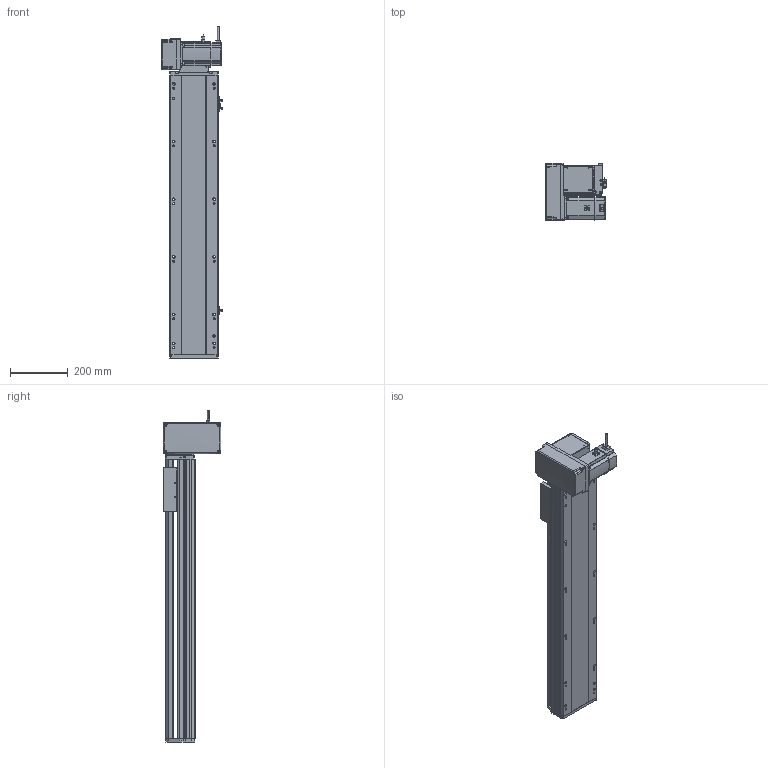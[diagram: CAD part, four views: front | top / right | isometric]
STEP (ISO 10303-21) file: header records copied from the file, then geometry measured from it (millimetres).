
FILE_DESCRIPTION (( 'STEP AP214' ), '1' );
FILE_NAME ('RTB17S-XX-700-LM-M75-C4.STEP', '2025-12-12T00:36:30', ( '' ), ( '' ), 'SwSTEP 2.0', 'SolidWorks 2018', '' );
FILE_SCHEMA (( 'AUTOMOTIVE_DESIGN' ));
Length unit declared in the file: millimetre
Products named in the file (15): EE672^RTB17S-XX-XX-LM-M75-C4; RTB17-R-011菁釱^RTB17S-XX-XX-LM-M75-C4; 750W萇儂^RTB17S-XX-XX-LM-M75-C4; RTB17S-賑釱^RTB17S-XX-XX-LM-M75-C4; RTB17S-L-007奻裔^RTB17S-XX-XX-LM-M75-C4; RTB17S-L-001-耜醱啣^RTB17S-XX-XX-LM-M75-C4; RTH13-BL-012覜茼え俋离^RTB17S-賑釱_RTB17S-XX-XX-LM-M75-C4; RTB17S-XX-700-LM-M75-C4; RTB22S-GY-017P^RTB17S-LM-々湍釱蚾饜-750W_RTB17S-XX-XX-LM-M75-C4; RTB22S-GY-008-M75--萇儂啣^RTB17S-LM-々湍釱蚾饜-750W_RTB17S-XX-XX-LM-M75-C4; RTB22S-GY-018P^RTB17S-LM-々湍釱蚾饜-750W_RTB17S-XX-XX-LM-M75-C4; RTB22S-GY-005P^RTB17S-LM-々湍釱蚾饜-750W_RTB17S-XX-XX-LM-M75-C4; RTB17S-L-014-T20-P75--々湍釱^RTB17S-LM-々湍釱蚾饜-750W_RTB17S-XX-XX-LM-M75-C4; RTB17S-LM-々湍釱蚾饜-750W^RTB17S-XX-XX-LM-M75-C4; RTB17S-L-004-賑釱^RTB17S-賑釱_RTB17S-XX-XX-LM-M75-C4
Assembly tree (17 placements, depth 3):
  RTB17S-XX-700-LM-M75-C4
    RTB17-R-011菁釱^RTB17S-XX-XX-LM-M75-C4
    EE672^RTB17S-XX-XX-LM-M75-C4  x3
    RTB17S-L-001-耜醱啣^RTB17S-XX-XX-LM-M75-C4
    RTB17S-賑釱^RTB17S-XX-XX-LM-M75-C4
      RTB17S-L-004-賑釱^RTB17S-賑釱_RTB17S-XX-XX-LM-M75-C4
      RTH13-BL-012覜茼え俋离^RTB17S-賑釱_RTB17S-XX-XX-LM-M75-C4
    RTB17S-L-007奻裔^RTB17S-XX-XX-LM-M75-C4
    750W萇儂^RTB17S-XX-XX-LM-M75-C4
    RTB17S-LM-々湍釱蚾饜-750W^RTB17S-XX-XX-LM-M75-C4
      RTB17S-L-014-T20-P75--々湍釱^RTB17S-LM-々湍釱蚾饜-750W_RTB17S-XX-XX-LM-M75-C4
      RTB22S-GY-005P^RTB17S-LM-々湍釱蚾饜-750W_RTB17S-XX-XX-LM-M75-C4
      RTB22S-GY-017P^RTB17S-LM-々湍釱蚾饜-750W_RTB17S-XX-XX-LM-M75-C4  x2
      RTB22S-GY-008-M75--萇儂啣^RTB17S-LM-々湍釱蚾饜-750W_RTB17S-XX-XX-LM-M75-C4
      RTB22S-GY-018P^RTB17S-LM-々湍釱蚾饜-750W_RTB17S-XX-XX-LM-M75-C4
Bounding box: 210.4 x 200 x 1152.2 mm (x, y, z)
Volume: 10323170.3 mm3; surface area: 1703319.6 mm2
Topology: 17 solids, 17 shells, 2073 faces, 5728 edges, 3698 vertices
Faces by surface type: plane 968, cylinder 689, bspline 294, cone 110, sphere 8, torus 4
Entity records: 57334 total; most frequent: CARTESIAN_POINT 16792, ORIENTED_EDGE 8300, DIRECTION 7772, EDGE_CURVE 4150, AXIS2_PLACEMENT_3D 2718, VERTEX_POINT 2702, VECTOR 2336, LINE 2336
